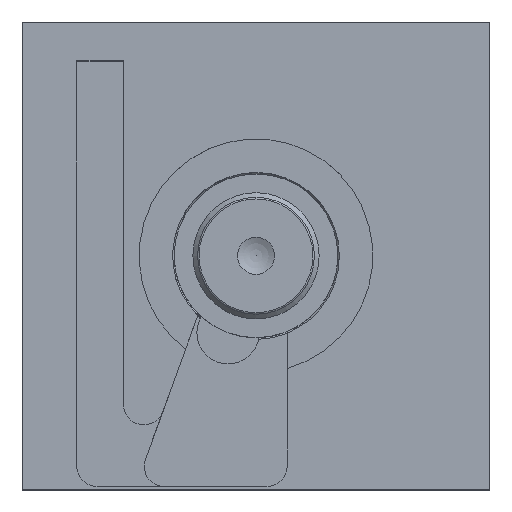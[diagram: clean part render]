
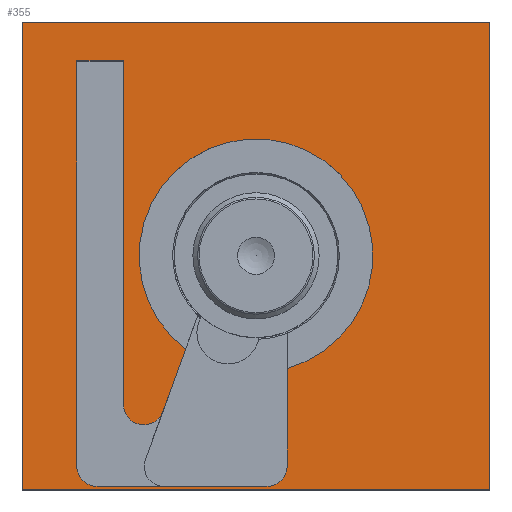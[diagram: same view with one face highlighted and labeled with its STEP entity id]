
A CAD part, top view. The second image highlights one B-rep face of the part: STEP entity #355.
In plain terms, the highlighted planar face has unit normal (0, 0, 1).
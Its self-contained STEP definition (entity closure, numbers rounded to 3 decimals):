
#355 = ADVANCED_FACE( '', ( #781, #782 ), #783, .T. );
#781 = FACE_OUTER_BOUND( '', #1281, .T. );
#782 = FACE_BOUND( '', #1282, .T. );
#783 = PLANE( '', #1283 );
#1281 = EDGE_LOOP( '', ( #1979, #1980, #1981, #1982 ) );
#1282 = EDGE_LOOP( '', ( #1983, #1984, #1985, #1986, #1987, #1988, #1989, #1990, #1991, #1992, #1993 ) );
#1283 = AXIS2_PLACEMENT_3D( '', #1994, #1995, #1996 );
#1979 = ORIENTED_EDGE( '', *, *, #2378, .T. );
#1980 = ORIENTED_EDGE( '', *, *, #2356, .T. );
#1981 = ORIENTED_EDGE( '', *, *, #2516, .T. );
#1982 = ORIENTED_EDGE( '', *, *, #2520, .T. );
#1983 = ORIENTED_EDGE( '', *, *, #2521, .F. );
#1984 = ORIENTED_EDGE( '', *, *, #2522, .T. );
#1985 = ORIENTED_EDGE( '', *, *, #2523, .T. );
#1986 = ORIENTED_EDGE( '', *, *, #2524, .T. );
#1987 = ORIENTED_EDGE( '', *, *, #2504, .T. );
#1988 = ORIENTED_EDGE( '', *, *, #2299, .T. );
#1989 = ORIENTED_EDGE( '', *, *, #2401, .T. );
#1990 = ORIENTED_EDGE( '', *, *, #2345, .T. );
#1991 = ORIENTED_EDGE( '', *, *, #2322, .T. );
#1992 = ORIENTED_EDGE( '', *, *, #2360, .T. );
#1993 = ORIENTED_EDGE( '', *, *, #2525, .T. );
#1994 = CARTESIAN_POINT( '', ( -150., -150., 0. ) );
#1995 = DIRECTION( '', ( 0., 0., 1. ) );
#1996 = DIRECTION( '', ( 0., -1., 0. ) );
#2299 = EDGE_CURVE( '', #2602, #2606, #2608, .F. );
#2322 = EDGE_CURVE( '', #2640, #2644, #2646, .T. );
#2345 = EDGE_CURVE( '', #2679, #2640, #2682, .T. );
#2356 = EDGE_CURVE( '', #2695, #2699, #2701, .T. );
#2360 = EDGE_CURVE( '', #2644, #2705, #2707, .T. );
#2378 = EDGE_CURVE( '', #2733, #2695, #2736, .T. );
#2401 = EDGE_CURVE( '', #2606, #2679, #2771, .T. );
#2504 = EDGE_CURVE( '', #2928, #2602, #2931, .T. );
#2516 = EDGE_CURVE( '', #2699, #2946, #2948, .T. );
#2520 = EDGE_CURVE( '', #2946, #2733, #2952, .T. );
#2521 = EDGE_CURVE( '', #2953, #2954, #2955, .T. );
#2522 = EDGE_CURVE( '', #2953, #2956, #2957, .T. );
#2523 = EDGE_CURVE( '', #2956, #2958, #2959, .F. );
#2524 = EDGE_CURVE( '', #2958, #2928, #2960, .T. );
#2525 = EDGE_CURVE( '', #2705, #2954, #2961, .T. );
#2602 = VERTEX_POINT( '', #3053 );
#2606 = VERTEX_POINT( '', #3058 );
#2608 = CIRCLE( '', #3061, 13. );
#2640 = VERTEX_POINT( '', #3096 );
#2644 = VERTEX_POINT( '', #3102 );
#2646 = LINE( '', #3105, #3106 );
#2679 = VERTEX_POINT( '', #3142 );
#2682 = LINE( '', #3147, #3148 );
#2695 = VERTEX_POINT( '', #3161 );
#2699 = VERTEX_POINT( '', #3167 );
#2701 = LINE( '', #3170, #3171 );
#2705 = VERTEX_POINT( '', #3175 );
#2707 = CIRCLE( '', #3178, 13. );
#2733 = VERTEX_POINT( '', #3204 );
#2736 = LINE( '', #3209, #3210 );
#2771 = LINE( '', #3246, #3247 );
#2928 = VERTEX_POINT( '', #3426 );
#2931 = LINE( '', #3431, #3432 );
#2946 = VERTEX_POINT( '', #3448 );
#2948 = LINE( '', #3451, #3452 );
#2952 = LINE( '', #3456, #3457 );
#2953 = VERTEX_POINT( '', #3458 );
#2954 = VERTEX_POINT( '', #3459 );
#2955 = CIRCLE( '', #3460, 75. );
#2956 = VERTEX_POINT( '', #3461 );
#2957 = LINE( '', #3462, #3463 );
#2958 = VERTEX_POINT( '', #3464 );
#2959 = CIRCLE( '', #3465, 13. );
#2960 = LINE( '', #3466, #3467 );
#2961 = LINE( '', #3468, #3469 );
#3053 = CARTESIAN_POINT( '', ( -102., -148., 0. ) );
#3058 = CARTESIAN_POINT( '', ( -115., -135., 0. ) );
#3061 = AXIS2_PLACEMENT_3D( '', #3567, #3568, #3569 );
#3096 = CARTESIAN_POINT( '', ( -85., 125., 0. ) );
#3102 = CARTESIAN_POINT( '', ( -85., -95.485, 0. ) );
#3105 = CARTESIAN_POINT( '', ( -85., -150., 0. ) );
#3106 = VECTOR( '', #3603, 1000. );
#3142 = CARTESIAN_POINT( '', ( -115., 125., 0. ) );
#3147 = CARTESIAN_POINT( '', ( -150., 125., 0. ) );
#3148 = VECTOR( '', #3636, 1000. );
#3161 = CARTESIAN_POINT( '', ( -150., -150., 0. ) );
#3167 = CARTESIAN_POINT( '', ( 150., -150., 0. ) );
#3170 = CARTESIAN_POINT( '', ( -150., -150., 0. ) );
#3171 = VECTOR( '', #3652, 1000. );
#3175 = CARTESIAN_POINT( '', ( -59.784, -99.931, 0. ) );
#3178 = AXIS2_PLACEMENT_3D( '', #3657, #3658, #3659 );
#3204 = CARTESIAN_POINT( '', ( -150., 150., 0. ) );
#3209 = CARTESIAN_POINT( '', ( -150., 150., 0. ) );
#3210 = VECTOR( '', #3689, 1000. );
#3246 = CARTESIAN_POINT( '', ( -115., -150., 0. ) );
#3247 = VECTOR( '', #3727, 1000. );
#3426 = CARTESIAN_POINT( '', ( -58.714, -148., 0. ) );
#3431 = CARTESIAN_POINT( '', ( -150., -148., 0. ) );
#3432 = VECTOR( '', #3878, 1000. );
#3448 = CARTESIAN_POINT( '', ( 150., 150., 0. ) );
#3451 = CARTESIAN_POINT( '', ( 150., -150., 0. ) );
#3452 = VECTOR( '', #3893, 1000. );
#3456 = CARTESIAN_POINT( '', ( 150., 150., 0. ) );
#3457 = VECTOR( '', #3894, 1000. );
#3458 = CARTESIAN_POINT( '', ( 20., -72.284, 0. ) );
#3459 = CARTESIAN_POINT( '', ( -45.196, -59.852, 0. ) );
#3460 = AXIS2_PLACEMENT_3D( '', #3895, #3896, #3897 );
#3461 = CARTESIAN_POINT( '', ( 20., -135., 0. ) );
#3462 = CARTESIAN_POINT( '', ( 20., -150., 0. ) );
#3463 = VECTOR( '', #3898, 1000. );
#3464 = CARTESIAN_POINT( '', ( 7., -148., 0. ) );
#3465 = AXIS2_PLACEMENT_3D( '', #3899, #3900, #3901 );
#3466 = CARTESIAN_POINT( '', ( -150., -148., 0. ) );
#3467 = VECTOR( '', #3902, 1000. );
#3468 = CARTESIAN_POINT( '', ( -86.429, -173.138, 0. ) );
#3469 = VECTOR( '', #3903, 1000. );
#3567 = CARTESIAN_POINT( '', ( -102., -135., 0. ) );
#3568 = DIRECTION( '', ( 0., 0., 1. ) );
#3569 = DIRECTION( '', ( 1., 0., 0. ) );
#3603 = DIRECTION( '', ( 0., -1., 0. ) );
#3636 = DIRECTION( '', ( 1., 0., 0. ) );
#3652 = DIRECTION( '', ( 1., 0., 0. ) );
#3657 = CARTESIAN_POINT( '', ( -72., -95.485, 0. ) );
#3658 = DIRECTION( '', ( 0., 0., 1. ) );
#3659 = DIRECTION( '', ( 1., 0., 0. ) );
#3689 = DIRECTION( '', ( 0., -1., 0. ) );
#3727 = DIRECTION( '', ( 0., 1., 0. ) );
#3878 = DIRECTION( '', ( -1., 0., 0. ) );
#3893 = DIRECTION( '', ( 0., 1., 0. ) );
#3894 = DIRECTION( '', ( -1., 0., 0. ) );
#3895 = CARTESIAN_POINT( '', ( 0., 0., 0. ) );
#3896 = DIRECTION( '', ( 0., 0., 1. ) );
#3897 = DIRECTION( '', ( -1., 0., 0. ) );
#3898 = DIRECTION( '', ( 0., -1., 0. ) );
#3899 = CARTESIAN_POINT( '', ( 7., -135., 0. ) );
#3900 = DIRECTION( '', ( 0., 0., 1. ) );
#3901 = DIRECTION( '', ( 1., 0., 0. ) );
#3902 = DIRECTION( '', ( -1., 0., 0. ) );
#3903 = DIRECTION( '', ( 0.342, 0.94, 0. ) );
